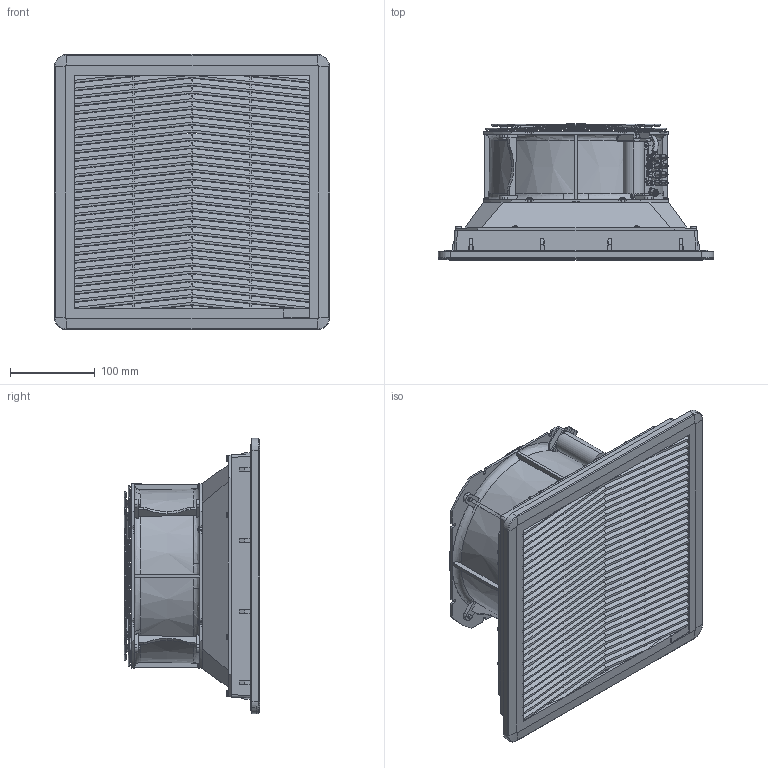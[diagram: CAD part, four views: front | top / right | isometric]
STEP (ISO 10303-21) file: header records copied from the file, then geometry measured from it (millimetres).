
FILE_DESCRIPTION((''),'2;1');
FILE_NAME('SCE-N3RFA1010-230_ASM','2017-05-15T',('dougp'),('SAGINAW CONTROL & ENGINEERING'),'PRO/ENGINEER BY PARAMETRIC TECHNOLOGY CORPORATION, 2012070','PRO/ENGINEER BY PARAMETRIC TECHNOLOGY CORPORATION, 2012070','');
FILE_SCHEMA(('AUTOMOTIVE_DESIGN { 1 0 10303 214 1 1 1 1 }'));
Products named in the file (33): NONE-619; __19709__VITE_4; BREP_3; __20725__DADO_FIX_COND3; BREP_5; BREP_6; BREP_7; __20769__VITE_TSEI3-626; __22018__CONDENSATORE2; __20769__VITE_TSEI3-628; __20769__VITE_TSEI3-629; __20769__VITE_TSEI3-630; BREP_13; __20980__MORSETTIERA2; BREP_15; BREP_16; BREP_17; NONE-636; NONE-637; NONE-638; NONE-639; BREP_22; BREP_23; BREP_24; BREP_25; BREP_26; BREP_27; BREP_28; BREP_29; _1_A; 1_A_ASM_ASM; FAN-ASSEMBLY_ASM; SCE-N3RFA1010-230_ASM
Assembly tree (32 placements, depth 4):
  SCE-N3RFA1010-230_ASM
    FAN-ASSEMBLY_ASM
      1_A_ASM_ASM
        NONE-619
        __19709__VITE_4
        BREP_3
        __20725__DADO_FIX_COND3
        BREP_5
        BREP_6
        BREP_7
        __20769__VITE_TSEI3-626
        __22018__CONDENSATORE2
        __20769__VITE_TSEI3-628
        __20769__VITE_TSEI3-629
        __20769__VITE_TSEI3-630
        BREP_13
        __20980__MORSETTIERA2
        BREP_15
        BREP_16
        BREP_17
        NONE-636
        NONE-637
        NONE-638
        NONE-639
        BREP_22
        BREP_23
        BREP_24
        BREP_25
        BREP_26
        BREP_27
        BREP_28
        BREP_29
        _1_A
Bounding box: 325 x 160.17 x 325 mm (x, y, z)
Volume: 63003.2 mm3; surface area: 927944.6 mm2
Topology: 29 solids, 36 shells, 4660 faces, 14151 edges, 8980 vertices
Faces by surface type: plane 2315, cylinder 1355, cone 411, bspline 311, torus 202, sphere 44, revolution 19, extrusion 3
Entity records: 195841 total; most frequent: CARTESIAN_POINT 72610, ORIENTED_EDGE 27064, DIRECTION 22509, EDGE_CURVE 14111, VERTEX_POINT 8980, VECTOR 7908, LINE 7905, AXIS2_PLACEMENT_3D 7291
